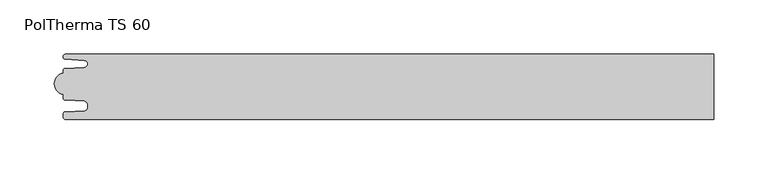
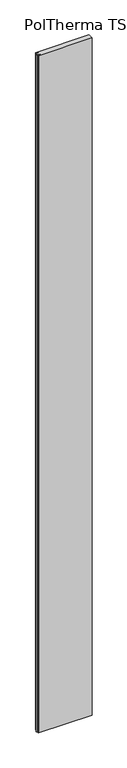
"""IFC4 building model written with IfcOpenShell, lengths in millimetres: plate geometry, Europanels_Poltherma TS_Vt : PolTherma TS 60."""

import ifcopenshell
import ifcopenshell.guid

model = None  # the IFC model being written
_history = None  # IfcOwnerHistory: only IFC2X3 demands one
_inside = {}  # id of a spatial element -> (the spatial element, [elements in it])
_under = {}  # id of a project, library or spatial element -> (it, [spatial elements below it])
_declared = {}  # id of a project -> (the project, [libraries it declares])
_typed = {}  # id of a type object -> (the type object, [elements of that type])
_made_of = {}  # id of a material, layer set ... -> (it, [elements and type objects made of it])


def new_model(schema):
    """Start an empty IFC model of exactly this schema.

    Asked for "IFC4X3", IfcOpenShell would pick the latest addendum, in which some entities
    have other attributes; the version numbers below select the first issue.
    IFC2X3 requires an IfcOwnerHistory on every rooted entity: one is made here for all.
    """
    global model, _history
    if schema == "IFC4X3":
        model = ifcopenshell.file(schema_version=(4, 3, 0, 0))
    else:
        model = ifcopenshell.file(schema=schema)
    _inside.clear()
    _under.clear()
    _declared.clear()
    _typed.clear()
    _made_of.clear()
    _history = None
    if model.schema == "IFC2X3":
        org = make("IfcOrganization", Name="unknown")
        user = make(
            "IfcPersonAndOrganization",
            ThePerson=make("IfcPerson", FamilyName="unknown"),
            TheOrganization=org,
        )
        app = make(
            "IfcApplication",
            ApplicationDeveloper=org,
            Version="unknown",
            ApplicationFullName="unknown",
            ApplicationIdentifier="unknown",
        )
        _history = make(
            "IfcOwnerHistory",
            OwningUser=user,
            OwningApplication=app,
            ChangeAction="ADDED",
            CreationDate=0,
        )
    return model


def make(cls, **values):
    """One entity of the class cls with the attributes given. An attribute that is None is left unset."""
    return model.create_entity(
        cls, **{name: value for name, value in values.items() if value is not None}
    )


def rooted(cls, **values):
    """An entity with a GlobalId (a new one), such as an element, a storey or a relation."""
    return make(cls, GlobalId=ifcopenshell.guid.new(), OwnerHistory=_history, **values)


def si_unit(unit_type, name, prefix=None):
    """IfcSIUnit, for example si_unit("LENGTHUNIT", "METRE", prefix="MILLI")."""
    return make("IfcSIUnit", UnitType=unit_type, Prefix=prefix, Name=name)


def assignment(units):
    """IfcUnitAssignment: the units of a project."""
    return None if units is None else make("IfcUnitAssignment", Units=units)


def point(xyz):
    """IfcCartesianPoint."""
    return None if xyz is None else make("IfcCartesianPoint", Coordinates=xyz)


def direction(xyz):
    """IfcDirection."""
    return None if xyz is None else make("IfcDirection", DirectionRatios=xyz)


def frame(location, z_axis=None, x_axis=None):
    """IfcAxis2Placement3D, a coordinate frame: its origin and axes. An axis left out is left unset."""
    return make(
        "IfcAxis2Placement3D",
        Location=point(location),
        Axis=direction(z_axis),
        RefDirection=direction(x_axis),
    )


def frame_2d(location, x_axis=None):
    """IfcAxis2Placement2D, a coordinate frame in the plane: its origin and x axis."""
    return make(
        "IfcAxis2Placement2D", Location=point(location), RefDirection=direction(x_axis)
    )


def origin():
    """The frame at (0, 0, 0) with its axes left unset."""
    return frame((0.0, 0.0, 0.0))


def origin_with_axes():
    """The frame at (0, 0, 0) with the z axis (0, 0, 1) and the x axis (1, 0, 0) written out."""
    return frame((0.0, 0.0, 0.0), z_axis=(0.0, 0.0, 1.0), x_axis=(1.0, 0.0, 0.0))


def place(relative_to, where):
    """IfcLocalPlacement: puts the frame where relative to a parent placement (None: the world)."""
    return make(
        "IfcLocalPlacement", PlacementRelTo=relative_to, RelativePlacement=where
    )


def context(
    kind, dimensions, precision=None, world=None, true_north=None, identifier=None
):
    """IfcGeometricRepresentationContext, for example the 3D "Model" context."""
    return make(
        "IfcGeometricRepresentationContext",
        ContextIdentifier=identifier,
        ContextType=kind,
        CoordinateSpaceDimension=dimensions,
        Precision=precision,
        WorldCoordinateSystem=world,
        TrueNorth=true_north,
    )


def project(units=None, contexts=None):
    """IfcProject with its units and contexts."""
    return rooted(
        "IfcProject",
        Name="project",
        RepresentationContexts=contexts,
        UnitsInContext=assignment(units),
    )


def spatial(cls, under=None, at=None, **own):
    """A site, building, storey or space (cls), placed at a placement, below another one or the project."""
    s = rooted(cls, ObjectPlacement=at, **own)
    if under is not None:
        _under.setdefault(under.id(), (under, []))[1].append(s)
    return s


def polyline(points):
    """IfcPolyline through the points."""
    return make("IfcPolyline", Points=[point(p) for p in points])


def circle_curve(where, radius):
    """IfcCircle in the frame where."""
    return make("IfcCircle", Position=where, Radius=radius)


def trimmed(basis, trim1, trim2, sense, master):
    """IfcTrimmedCurve: the piece of a basis curve between two trims."""
    return make(
        "IfcTrimmedCurve",
        BasisCurve=basis,
        Trim1=trim1,
        Trim2=trim2,
        SenseAgreement=sense,
        MasterRepresentation=master,
    )


def segment(curve, same_sense, transition):
    """IfcCompositeCurveSegment."""
    return make(
        "IfcCompositeCurveSegment",
        Transition=transition,
        SameSense=same_sense,
        ParentCurve=curve,
    )


def composite_curve(segments, self_intersect=None):
    """IfcCompositeCurve: segments joined end to end."""
    return make("IfcCompositeCurve", Segments=segments, SelfIntersect=self_intersect)


def outline(outer, holes=None, kind="AREA"):
    """IfcArbitraryClosedProfileDef: a profile drawn as a closed curve; with holes, ...WithVoids."""
    if holes is None:
        return make("IfcArbitraryClosedProfileDef", ProfileType=kind, OuterCurve=outer)
    return make(
        "IfcArbitraryProfileDefWithVoids",
        ProfileType=kind,
        OuterCurve=outer,
        InnerCurves=holes,
    )


def extrude(swept, where, along, depth):
    """IfcExtrudedAreaSolid: the profile swept, set in the frame where, extruded along a direction by depth."""
    return make(
        "IfcExtrudedAreaSolid",
        SweptArea=swept,
        Position=where,
        ExtrudedDirection=direction(along),
        Depth=depth,
    )


def shape(context_of_items, identifier, shape_type, items):
    """IfcShapeRepresentation: the items that make up one representation, for example the "Body"."""
    return make(
        "IfcShapeRepresentation",
        ContextOfItems=context_of_items,
        RepresentationIdentifier=identifier,
        RepresentationType=shape_type,
        Items=items,
    )


def source(mapping_origin, context_of_items, identifier, shape_type, items):
    """IfcRepresentationMap: a shape defined once, which mapped items show again and again."""
    return make(
        "IfcRepresentationMap",
        MappingOrigin=mapping_origin,
        MappedRepresentation=shape(context_of_items, identifier, shape_type, items),
    )


def transform(
    local_origin,
    x_axis=None,
    y_axis=None,
    z_axis=None,
    scale=None,
    scale2=None,
    scale3=None,
    uniform=True,
):
    """IfcCartesianTransformationOperator3D, or its non-uniform kind. x_axis, y_axis, z_axis: its Axis1, 2, 3."""
    if uniform:
        return make(
            "IfcCartesianTransformationOperator3D",
            Axis1=direction(x_axis),
            Axis2=direction(y_axis),
            LocalOrigin=point(local_origin),
            Scale=scale,
            Axis3=direction(z_axis),
        )
    return make(
        "IfcCartesianTransformationOperator3DnonUniform",
        Axis1=direction(x_axis),
        Axis2=direction(y_axis),
        LocalOrigin=point(local_origin),
        Scale=scale,
        Axis3=direction(z_axis),
        Scale2=scale2,
        Scale3=scale3,
    )


def mapped(mapping_source, mapping_target):
    """IfcMappedItem: shows the shape of a source again, moved by a transform."""
    return make(
        "IfcMappedItem", MappingSource=mapping_source, MappingTarget=mapping_target
    )


def made_of(thing, what):
    """Note that an element or type object is made of a material, layer set ...; save() writes the relation."""
    if what is not None:
        _made_of.setdefault(what.id(), (what, []))[1].append(thing)
    return thing


def element(
    cls,
    number,
    at=None,
    inside=None,
    cuts=None,
    type_object=None,
    material=None,
    context=None,
    identifier="Body",
    shape_type=None,
    held_by="IfcProductDefinitionShape",
    body=None,
    shapes=None,
    **own,
):
    """One element of the class cls, such as IfcWall. Its Tag is "e" and its number.

    at: its placement. inside: the storey or other place that contains it. cuts: it is an
    opening in that element (IfcRelVoidsElement). A single representation is given by context,
    identifier, shape_type and body (its items); several are given by shapes. held_by: the class
    of the entity that holds the representations. save() writes the other relations.
    """
    e = rooted(cls, Tag="e%d" % number, ObjectPlacement=at, **own)
    if body is not None:
        shapes = [shape(context, identifier, shape_type, body)]
    if shapes is not None:
        e.Representation = make(held_by, Representations=shapes)
    if inside is not None:
        _inside.setdefault(inside.id(), (inside, []))[1].append(e)
    if cuts is not None:
        rooted(
            "IfcRelVoidsElement", RelatingBuildingElement=cuts, RelatedOpeningElement=e
        )
    if type_object is not None:
        _typed.setdefault(type_object.id(), (type_object, []))[1].append(e)
    return made_of(e, material)


def aggregate(whole, parts):
    """IfcRelAggregates: a whole, such as a stair, and the parts it consists of."""
    return rooted("IfcRelAggregates", RelatingObject=whole, RelatedObjects=parts)


def save(model, path):
    """Write the relations noted so far, then the file.

    IfcRelAggregates (storeys below a building ...), IfcRelContainedInSpatialStructure (elements
    in a storey), IfcRelDefinesByType, IfcRelAssociatesMaterial and IfcRelDeclares: one each for
    every whole, place, type object, material and project.
    """
    for whole, parts in _under.values():
        aggregate(whole, parts)
    for where, things in _inside.values():
        rooted(
            "IfcRelContainedInSpatialStructure",
            RelatedElements=things,
            RelatingStructure=where,
        )
    for kind, things in _typed.values():
        rooted("IfcRelDefinesByType", RelatedObjects=things, RelatingType=kind)
    for what, things in _made_of.values():
        rooted("IfcRelAssociatesMaterial", RelatedObjects=things, RelatingMaterial=what)
    for by, libraries in _declared.values():
        rooted("IfcRelDeclares", RelatingContext=by, RelatedDefinitions=libraries)
    model.write(path)


def poltherma_ts_60_06df7f63(model_context):
    return source(origin(), model_context, "Body", "SweptSolid", [
        extrude(outline(composite_curve([segment(trimmed(circle_curve(frame_2d((-296.6475513, 2.7)), 10.0), [point((-298.5011047, -7.1267156))], [point((-298.5011047, 12.5267156))], False, "CARTESIAN"), True, "CONTINUOUS"), segment(polyline([(-298.5011047, 12.5267156), (-298.5011047, 14.9895357)]), True, "CONTINUOUS"), segment(trimmed(circle_curve(frame_2d((-296.7511047, 14.9895357)), 1.75), [point((-298.5011047, 14.9895357))], [point((-296.8518238, 16.7366349))], False, "CARTESIAN"), True, "CONTINUOUS"), segment(polyline([(-296.8518238, 16.7366349), (-278.9159977, 17.7706234)]), True, "CONTINUOUS"), segment(trimmed(circle_curve(frame_2d((-279.1050337, 21.0496909)), 3.2845119), [point((-278.9159977, 17.7706234))], [point((-278.927598, 24.3294066))], True, "CARTESIAN"), True, "CONTINUOUS"), segment(polyline([(-278.927598, 24.3294066), (-296.3235705, 25.2705454)]), True, "CONTINUOUS"), segment(trimmed(circle_curve(frame_2d((-296.1957299, 27.6335449)), 2.3664551), [point((-296.3235705, 25.2705454))], [point((-296.1957299, 30.0))], False, "CARTESIAN"), True, "CONTINUOUS"), segment(polyline([(-296.1957299, 30.0), (300.0, 30.0), (300.0, -30.0), (-296.5011047, -30.0)]), True, "CONTINUOUS"), segment(trimmed(circle_curve(frame_2d((-296.5011047, -28.0)), 2.0), [point((-296.5011047, -30.0))], [point((-298.5011047, -28.0))], False, "CARTESIAN"), True, "CONTINUOUS"), segment(polyline([(-298.5011047, -28.0), (-298.5011047, -25.2751521)]), True, "CONTINUOUS"), segment(trimmed(circle_curve(frame_2d((-296.5011047, -25.2751521)), 2.0), [point((-298.5011047, -25.2751521))], [point((-296.6091486, -23.2780726))], False, "CARTESIAN"), True, "CONTINUOUS"), segment(polyline([(-296.6091486, -23.2780726), (-278.8358621, -22.3165207)]), True, "CONTINUOUS"), segment(trimmed(circle_curve(frame_2d((-278.9979279, -19.3209015)), 3.0), [point((-278.8358621, -22.3165207))], [point((-275.9979279, -19.3209015))], True, "CARTESIAN"), True, "CONTINUOUS"), segment(polyline([(-275.9979279, -19.3209015), (-275.9979279, -16.3793238)]), True, "CONTINUOUS"), segment(trimmed(circle_curve(frame_2d((-278.9979279, -16.3793238)), 3.0), [point((-275.9979279, -16.3793238))], [point((-278.8252666, -13.3842966))], True, "CARTESIAN"), True, "CONTINUOUS"), segment(polyline([(-278.8252666, -13.3842966), (-296.8047015, -12.3477941)]), True, "CONTINUOUS"), segment(trimmed(circle_curve(frame_2d((-296.7011047, -10.5507777)), 1.8), [point((-296.8047015, -12.3477941))], [point((-298.5011047, -10.5507777))], False, "CARTESIAN"), True, "CONTINUOUS"), segment(polyline([(-298.5011047, -10.5507777), (-298.5011047, -7.1267156)]), True, "CONTINUOUS")], self_intersect=False)), origin_with_axes(), (0.0, 0.0, 1.0), 8000.0),
    ])


if __name__ == "__main__":
    model = new_model("IFC4")
    model_context = context("Model", 3, world=origin())
    ifc_project = project(units=[si_unit("LENGTHUNIT", "METRE", prefix="MILLI")], contexts=[model_context])
    site = spatial("IfcSite", under=ifc_project)
    building = spatial("IfcBuilding", under=site)
    placement = place(None, origin())
    poltherma_ts_60_shape = poltherma_ts_60_06df7f63(model_context)
    element("IfcPlate", 1, ObjectType="Europanels_Poltherma TS_Vt : PolTherma TS 60", at=placement, inside=building, context=model_context, shape_type="MappedRepresentation", body=[
        mapped(poltherma_ts_60_shape, transform((0.0, 0.0, 0.0), x_axis=(1.0, 0.0, 0.0), y_axis=(0.0, 1.0, 0.0), z_axis=(0.0, 0.0, 1.0))),
    ])
    save(model, "model.ifc")
